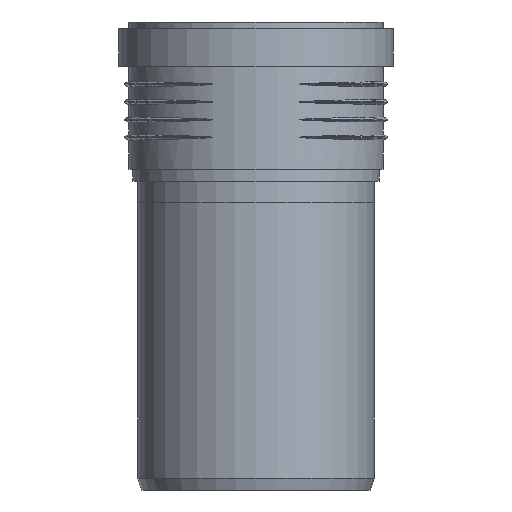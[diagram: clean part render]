
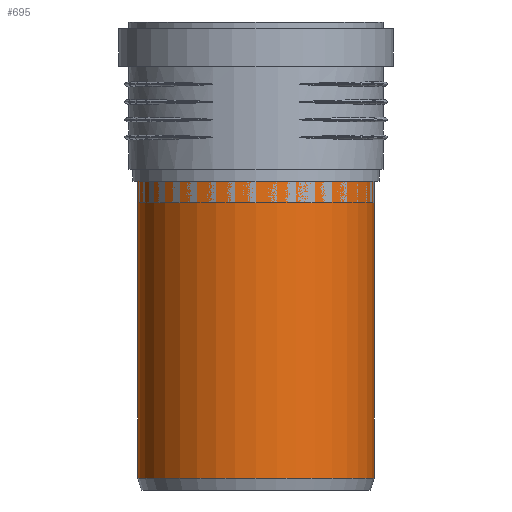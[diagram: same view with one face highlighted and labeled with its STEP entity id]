
A CAD part, left-side view. The second image highlights one B-rep face of the part: STEP entity #695.
In plain terms, the highlighted cylindrical face has radius 55.1 mm (diameter 110.2 mm), a full revolution.
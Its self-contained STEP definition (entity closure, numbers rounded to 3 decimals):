
#94=CYLINDRICAL_SURFACE($,#750,55.1);
#118=FACE_BOUND($,#198,.T.);
#153=FACE_OUTER_BOUND($,#197,.T.);
#197=EDGE_LOOP($,(#472));
#198=EDGE_LOOP($,(#473));
#272=CIRCLE($,#747,55.1);
#274=CIRCLE($,#751,55.1);
#311=VERTEX_POINT($,#1021);
#313=VERTEX_POINT($,#1027);
#382=EDGE_CURVE($,#311,#311,#272,.T.);
#384=EDGE_CURVE($,#313,#313,#274,.T.);
#472=ORIENTED_EDGE($,*,*,#384,.T.);
#473=ORIENTED_EDGE($,*,*,#382,.F.);
#695=ADVANCED_FACE($,(#153,#118),#94,.T.);
#747=AXIS2_PLACEMENT_3D($,#1022,#841,#842);
#750=AXIS2_PLACEMENT_3D($,#1026,#847,#848);
#751=AXIS2_PLACEMENT_3D($,#1028,#849,#850);
#841=DIRECTION('center_axis',(0.,0.,-1.));
#842=DIRECTION('ref_axis',(-1.,0.,0.));
#847=DIRECTION('center_axis',(0.,0.,1.));
#848=DIRECTION('ref_axis',(-1.,0.,0.));
#849=DIRECTION('center_axis',(0.,0.,-1.));
#850=DIRECTION('ref_axis',(-1.,0.,0.));
#1021=CARTESIAN_POINT('',(55.1,0.,-66.45));
#1022=CARTESIAN_POINT('Origin',(0.,0.,-66.45));
#1026=CARTESIAN_POINT('Origin',(0.,0.,0.));
#1027=CARTESIAN_POINT('',(55.1,0.,71.95));
#1028=CARTESIAN_POINT('Origin',(0.,0.,71.95));
